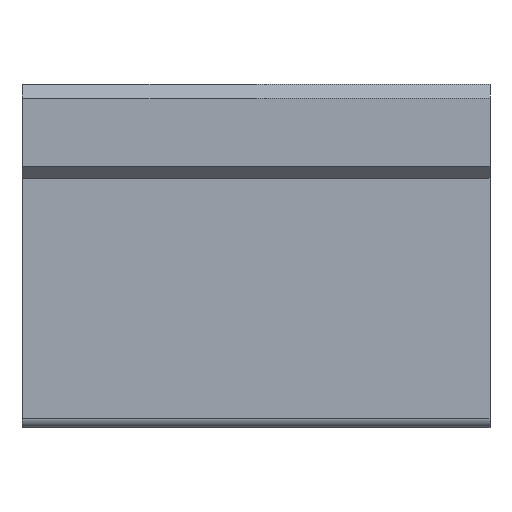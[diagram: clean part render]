
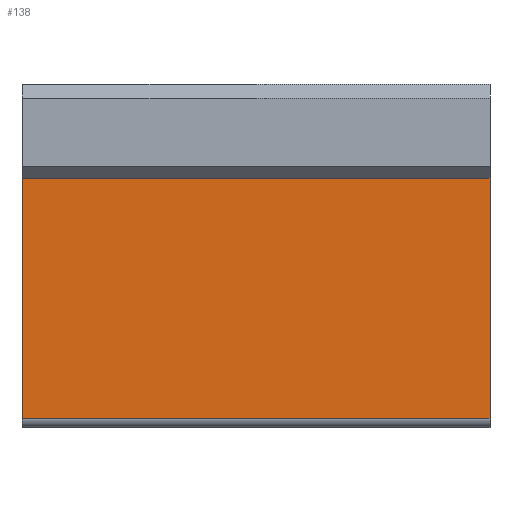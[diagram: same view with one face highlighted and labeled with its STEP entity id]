
A CAD part, front view. The second image highlights one B-rep face of the part: STEP entity #138.
In plain terms, the highlighted planar face has unit normal (0, -1, 0).
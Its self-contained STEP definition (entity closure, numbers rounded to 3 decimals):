
#138 = ADVANCED_FACE( '', ( #294 ), #295, .T. );
#294 = FACE_OUTER_BOUND( '', #447, .T. );
#295 = PLANE( '', #448 );
#447 = EDGE_LOOP( '', ( #753, #754, #755, #756 ) );
#448 = AXIS2_PLACEMENT_3D( '', #757, #758, #759 );
#753 = ORIENTED_EDGE( '', *, *, #922, .T. );
#754 = ORIENTED_EDGE( '', *, *, #844, .T. );
#755 = ORIENTED_EDGE( '', *, *, #939, .T. );
#756 = ORIENTED_EDGE( '', *, *, #940, .F. );
#757 = CARTESIAN_POINT( '', ( 0., -21.375, -13. ) );
#758 = DIRECTION( '', ( 0., -1., 0. ) );
#759 = DIRECTION( '', ( 1., 0., 0. ) );
#844 = EDGE_CURVE( '', #994, #998, #1000, .T. );
#922 = EDGE_CURVE( '', #1112, #994, #1113, .T. );
#939 = EDGE_CURVE( '', #998, #1132, #1133, .T. );
#940 = EDGE_CURVE( '', #1112, #1132, #1134, .T. );
#994 = VERTEX_POINT( '', #1200 );
#998 = VERTEX_POINT( '', #1205 );
#1000 = LINE( '', #1207, #1208 );
#1112 = VERTEX_POINT( '', #1358 );
#1113 = LINE( '', #1359, #1360 );
#1132 = VERTEX_POINT( '', #1385 );
#1133 = LINE( '', #1386, #1387 );
#1134 = LINE( '', #1388, #1389 );
#1200 = CARTESIAN_POINT( '', ( 0., -21.375, -12.1 ) );
#1205 = CARTESIAN_POINT( '', ( 45., -21.375, -12.1 ) );
#1207 = CARTESIAN_POINT( '', ( 0., -21.375, -12.1 ) );
#1208 = VECTOR( '', #1438, 1000. );
#1358 = CARTESIAN_POINT( '', ( 0., -21.375, 11. ) );
#1359 = CARTESIAN_POINT( '', ( 0., -21.375, 11. ) );
#1360 = VECTOR( '', #1519, 1000. );
#1385 = CARTESIAN_POINT( '', ( 45., -21.375, 11. ) );
#1386 = CARTESIAN_POINT( '', ( 45., -21.375, -13. ) );
#1387 = VECTOR( '', #1532, 1000. );
#1388 = CARTESIAN_POINT( '', ( 0., -21.375, 11. ) );
#1389 = VECTOR( '', #1533, 1000. );
#1438 = DIRECTION( '', ( 1., 0., 0. ) );
#1519 = DIRECTION( '', ( 0., 0., -1. ) );
#1532 = DIRECTION( '', ( 0., 0., 1. ) );
#1533 = DIRECTION( '', ( 1., 0., 0. ) );
